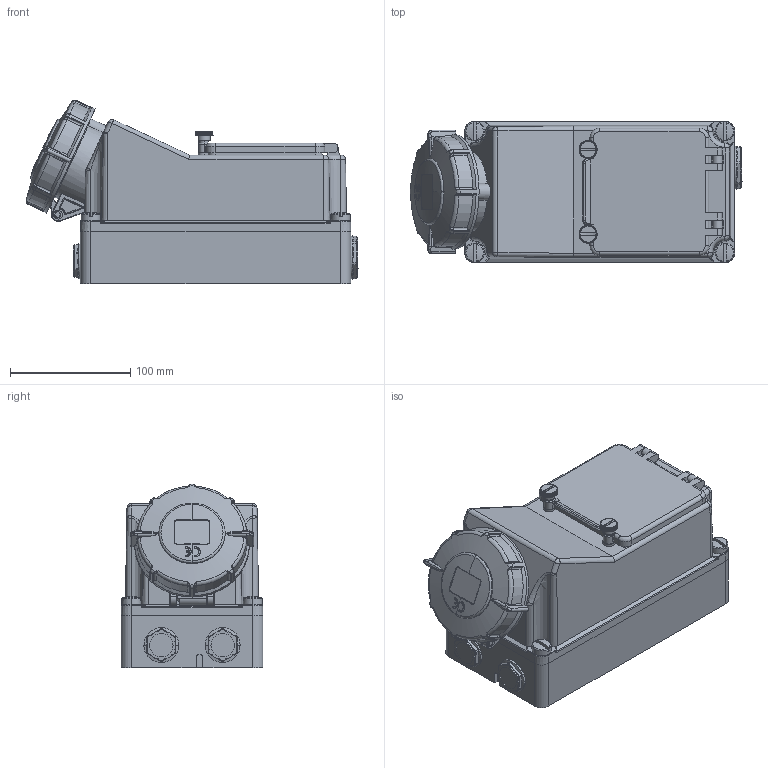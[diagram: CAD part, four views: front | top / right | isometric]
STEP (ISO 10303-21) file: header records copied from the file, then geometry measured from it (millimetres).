
FILE_DESCRIPTION((''),'2;1');
FILE_NAME('1114939_ASM_SW0001','2018-04-11T',('gisse'),('MENNEKES'),'PRO/ENGINEER BY PARAMETRIC TECHNOLOGY CORPORATION, 2015440','PRO/ENGINEER BY PARAMETRIC TECHNOLOGY CORPORATION, 2015440','');
FILE_SCHEMA(('AUTOMOTIVE_DESIGN { 1 0 10303 214 1 1 1 1 }'));
Products named in the file (1): 1114939_ASM_SW0001
Bounding box: 276.3 x 118 x 153.07 mm (x, y, z)
Volume: 3099571.4 mm3; surface area: 162385.2 mm2
Topology: 1 solids, 3 shells, 1457 faces, 3907 edges, 2483 vertices
Faces by surface type: plane 611, cylinder 326, cone 234, bspline 179, torus 73, sphere 34
Entity records: 88883 total; most frequent: CARTESIAN_POINT 25632, ORIENTED_EDGE 7810, DIRECTION 6342, PRESENTATION_STYLE_ASSIGNMENT 5330, STYLED_ITEM 3906, CURVE_STYLE 3905, EDGE_CURVE 3905, FILL_AREA_STYLE_COLOUR 2849
